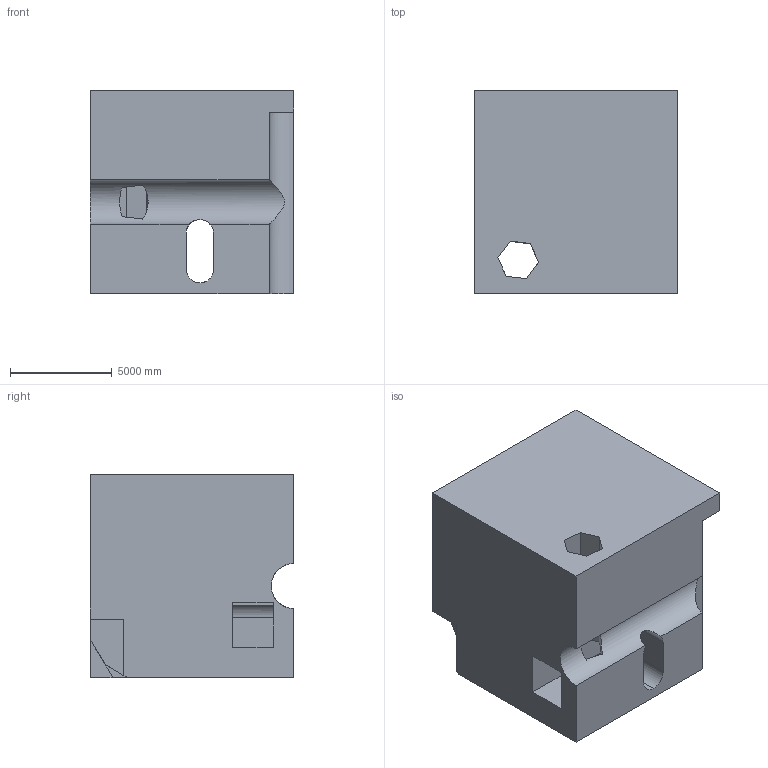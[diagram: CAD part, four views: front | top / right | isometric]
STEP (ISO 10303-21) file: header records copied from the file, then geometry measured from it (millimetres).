
FILE_DESCRIPTION (( 'STEP AP203' ), '1' );
FILE_NAME ('973.STEP', '2022-07-29T14:50:30', ( 'user' ), ( '' ), 'SwSTEP 2.0', 'SolidWorks 2021', '' );
FILE_SCHEMA (( 'CONFIG_CONTROL_DESIGN' ));
Length unit declared in the file: centimetre
Products named in the file (1): 973
Bounding box: 10000 x 10000 x 10000 mm (x, y, z)
Volume: 861542398137.6 mm3; surface area: 768617043.7 mm2
Topology: 1 solids, 1 shells, 49 faces, 153 edges, 102 vertices
Faces by surface type: plane 42, cylinder 7
Entity records: 2085 total; most frequent: CARTESIAN_POINT 640, ORIENTED_EDGE 306, DIRECTION 257, EDGE_CURVE 153, LINE 129, VECTOR 129, VERTEX_POINT 102, AXIS2_PLACEMENT_3D 64
